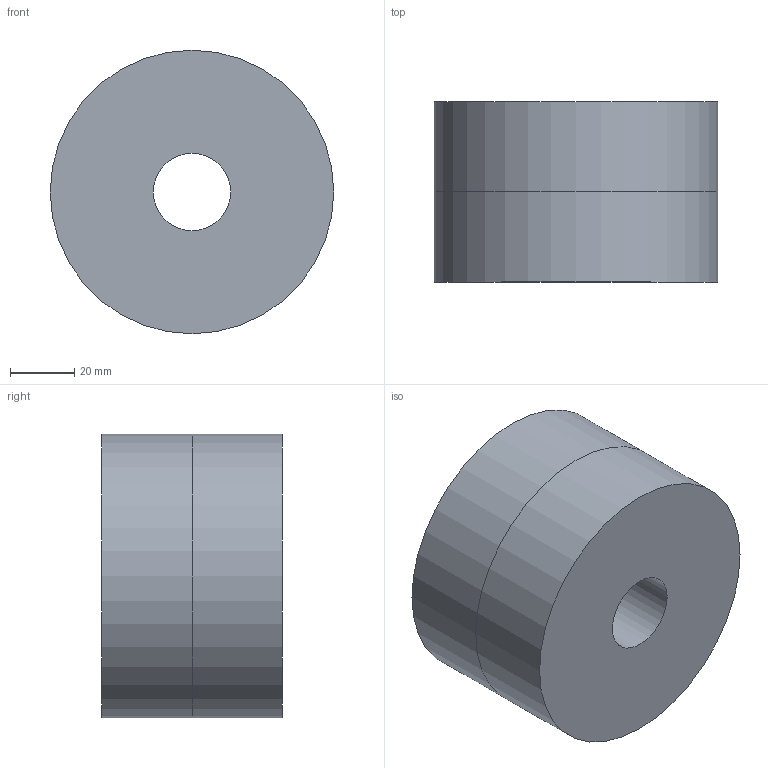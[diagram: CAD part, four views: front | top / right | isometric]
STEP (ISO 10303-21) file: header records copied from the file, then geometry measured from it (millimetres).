
FILE_DESCRIPTION(('Open CASCADE Model'),'2;1');
FILE_NAME('Open CASCADE Shape Model','2026-09-19T16:36:14',('Author'),( 'Open CASCADE'),'Open CASCADE STEP processor 7.8','Open CASCADE 7.8' ,'Unknown');
FILE_SCHEMA(('AUTOMOTIVE_DESIGN { 1 0 10303 214 1 1 1 1 }'));
Length unit declared in the file: millimetre
Products named in the file (1): Open CASCADE STEP translator 7.8 4
Bounding box: 88 x 56 x 88 mm (x, y, z)
Volume: 315265.1 mm3; surface area: 30963.5 mm2
Topology: 1 solids, 1 shells, 6 faces, 10 edges, 6 vertices
Faces by surface type: cylinder 4, plane 2
Full cylindrical faces by diameter (mm): 24 x2, 88 x2
Entity records: 286 total; most frequent: DIRECTION 48, CARTESIAN_POINT 45, ORIENTED_EDGE 20, PCURVE 20, DEFINITIONAL_REPRESENTATION 20, LINE 18, VECTOR 18, AXIS2_PLACEMENT_3D 13
